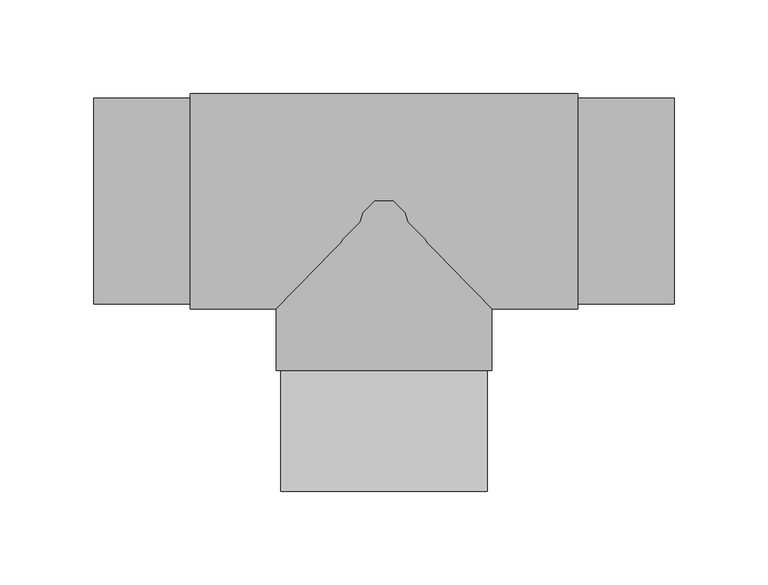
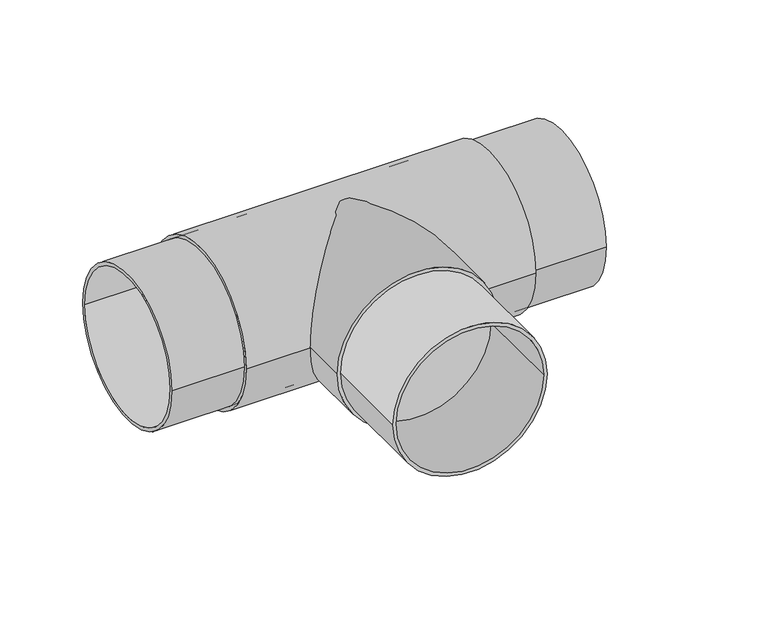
"""IFC4 building model written with IfcOpenShell, lengths in millimetres: pipe fitting geometry, EGB_VASEN_ PPR_Te a tope WXRB300_Te reducida a tope WXRB310 : Te a tope."""

from ifc_helpers import new_model, si_unit, point, frame, origin, origin_2d, place, context, project, spatial, circle_curve, trimmed, segment, composite_curve, outline, extrude, source, transform, mapped, element, save


def pipe_fitting_e6ada437(model_context):
    return source(origin(), model_context, "Body", "SweptSolid", [
        extrude(outline(composite_curve([segment(trimmed(circle_curve(origin_2d(), 55.0), [point((0.0, 55.0))], [point((0.0, -55.0))], False, "CARTESIAN"), True, "CONTINUOUS"), segment(trimmed(circle_curve(origin_2d(), 55.0), [point((0.0, -55.0))], [point((0.0, 55.0))], False, "CARTESIAN"), True, "CONTINUOUS")], self_intersect=False), holes=[composite_curve([segment(trimmed(circle_curve(origin_2d(), 52.5), [point((0.0, 52.5))], [point((0.0, -52.5))], True, "CARTESIAN"), True, "CONTINUOUS"), segment(trimmed(circle_curve(origin_2d(), 52.5), [point((0.0, -52.5))], [point((0.0, 52.5))], True, "CARTESIAN"), True, "CONTINUOUS")], self_intersect=False)]), frame((0.0, -155.0, 0.0), z_axis=(0.0, 1.0, 0.0), x_axis=(0.0, 0.0, 1.0)), (0.0, 0.0, 1.0), 64.5),
        extrude(outline(composite_curve([segment(trimmed(circle_curve(origin_2d(), 57.5), [point((0.0, 57.5))], [point((0.0, -57.5))], False, "CARTESIAN"), True, "CONTINUOUS"), segment(trimmed(circle_curve(origin_2d(), 57.5), [point((0.0, -57.5))], [point((0.0, 57.5))], False, "CARTESIAN"), True, "CONTINUOUS")], self_intersect=False)), frame((0.0, -90.5, 0.0), z_axis=(0.0, 1.0, 0.0), x_axis=(0.0, 0.0, 1.0)), (0.0, 0.0, 1.0), 90.5),
        extrude(outline(composite_curve([segment(trimmed(circle_curve(origin_2d(), 57.5), [point((-57.5, 0.0))], [point((57.5, 0.0))], False, "CARTESIAN"), True, "CONTINUOUS"), segment(trimmed(circle_curve(origin_2d(), 57.5), [point((57.5, 0.0))], [point((-57.5, 0.0))], False, "CARTESIAN"), True, "CONTINUOUS")], self_intersect=False), holes=[composite_curve([segment(trimmed(circle_curve(origin_2d(), 55.0), [point((-55.0, 0.0))], [point((55.0, 0.0))], True, "CARTESIAN"), True, "CONTINUOUS"), segment(trimmed(circle_curve(origin_2d(), 55.0), [point((55.0, 0.0))], [point((-55.0, 0.0))], True, "CARTESIAN"), True, "CONTINUOUS")], self_intersect=False)]), frame((-103.3333333, 0.0, 0.0), z_axis=(1.0, 0.0, 0.0), x_axis=(0.0, 1.0, 0.0)), (0.0, 0.0, 1.0), 206.6666667),
        extrude(outline(composite_curve([segment(trimmed(circle_curve(origin_2d(), 55.0), [point((-55.0, 0.0))], [point((55.0, 0.0))], False, "CARTESIAN"), True, "CONTINUOUS"), segment(trimmed(circle_curve(origin_2d(), 55.0), [point((55.0, 0.0))], [point((-55.0, 0.0))], False, "CARTESIAN"), True, "CONTINUOUS")], self_intersect=False), holes=[composite_curve([segment(trimmed(circle_curve(origin_2d(), 52.5), [point((-52.5, 0.0))], [point((52.5, 0.0))], True, "CARTESIAN"), True, "CONTINUOUS"), segment(trimmed(circle_curve(origin_2d(), 52.5), [point((52.5, 0.0))], [point((-52.5, 0.0))], True, "CARTESIAN"), True, "CONTINUOUS")], self_intersect=False)]), frame((-155.0, 0.0, 0.0), z_axis=(1.0, 0.0, 0.0), x_axis=(0.0, 1.0, 0.0)), (0.0, 0.0, 1.0), 310.0),
    ])


if __name__ == "__main__":
    model = new_model("IFC4")
    model_context = context("Model", 3, world=origin())
    ifc_project = project(units=[si_unit("LENGTHUNIT", "METRE", prefix="MILLI")], contexts=[model_context])
    site = spatial("IfcSite", under=ifc_project)
    building = spatial("IfcBuilding", under=site)
    placement = place(None, origin())
    pipe_fitting_shape = pipe_fitting_e6ada437(model_context)
    element("IfcPipeFitting", 1, ObjectType="EGB_VASEN_ PPR_Te a tope WXRB300_Te reducida a tope WXRB310 : Te a tope", at=placement, inside=building, context=model_context, shape_type="MappedRepresentation", body=[
        mapped(pipe_fitting_shape, transform((0.0, 0.0, 0.0), x_axis=(1.0, 0.0, 0.0), y_axis=(0.0, 1.0, 0.0), z_axis=(0.0, 0.0, 1.0))),
    ])
    save(model, "model.ifc")
